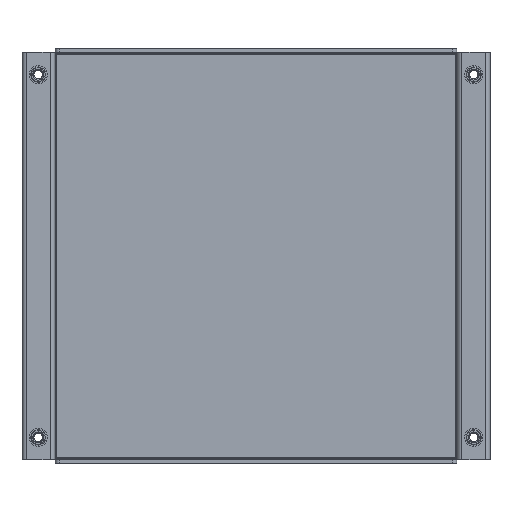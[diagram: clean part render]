
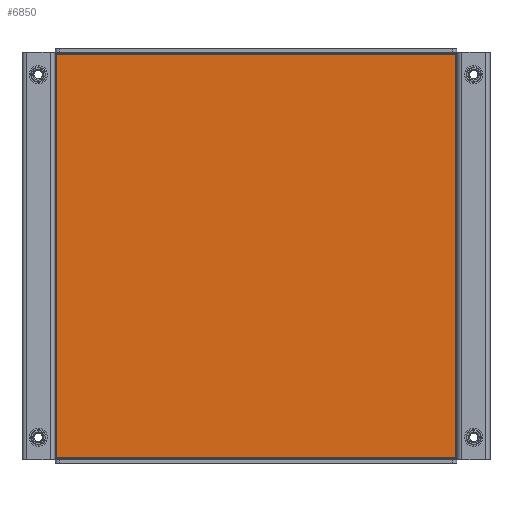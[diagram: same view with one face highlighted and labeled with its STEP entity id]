
A CAD part, front view. The second image highlights one B-rep face of the part: STEP entity #6850.
In plain terms, the highlighted planar face has unit normal (0, -1, 0).
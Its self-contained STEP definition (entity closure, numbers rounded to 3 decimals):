
#6735=DIRECTION('',(1.,0.,0.));
#6736=VECTOR('',#6735,110.);
#6737=CARTESIAN_POINT('',(-55.,-1.25,-55.65));
#6738=LINE('',#6737,#6736);
#6739=DIRECTION('',(0.,0.,-1.));
#6740=VECTOR('',#6739,111.3);
#6741=CARTESIAN_POINT('',(-55.,-1.25,55.65));
#6742=LINE('',#6741,#6740);
#6743=DIRECTION('',(-1.,0.,0.));
#6744=VECTOR('',#6743,110.);
#6745=CARTESIAN_POINT('',(55.,-1.25,55.65));
#6746=LINE('',#6745,#6744);
#6747=DIRECTION('',(0.,0.,1.));
#6748=VECTOR('',#6747,111.3);
#6749=CARTESIAN_POINT('',(55.,-1.25,-55.65));
#6750=LINE('',#6749,#6748);
#6759=CARTESIAN_POINT('',(-55.,-1.25,-55.65));
#6760=CARTESIAN_POINT('',(55.,-1.25,-55.65));
#6761=VERTEX_POINT('',#6759);
#6762=VERTEX_POINT('',#6760);
#6763=CARTESIAN_POINT('',(55.,-1.25,55.65));
#6764=VERTEX_POINT('',#6763);
#6765=CARTESIAN_POINT('',(-55.,-1.25,55.65));
#6766=VERTEX_POINT('',#6765);
#6839=CARTESIAN_POINT('',(0.,-1.25,0.));
#6840=DIRECTION('',(0.,-1.,0.));
#6841=DIRECTION('',(0.,0.,1.));
#6842=AXIS2_PLACEMENT_3D('',#6839,#6840,#6841);
#6843=PLANE('',#6842);
#6844=ORIENTED_EDGE('',*,*,#6791,.F.);
#6845=ORIENTED_EDGE('',*,*,#6806,.F.);
#6846=ORIENTED_EDGE('',*,*,#6820,.F.);
#6847=ORIENTED_EDGE('',*,*,#6833,.F.);
#6848=EDGE_LOOP('',(#6844,#6845,#6846,#6847));
#6849=FACE_OUTER_BOUND('',#6848,.F.);
#6791=EDGE_CURVE('',#6761,#6762,#6738,.T.);
#6806=EDGE_CURVE('',#6766,#6761,#6742,.T.);
#6820=EDGE_CURVE('',#6764,#6766,#6746,.T.);
#6833=EDGE_CURVE('',#6762,#6764,#6750,.T.);
#6850=ADVANCED_FACE('',(#6849),#6843,.T.);
